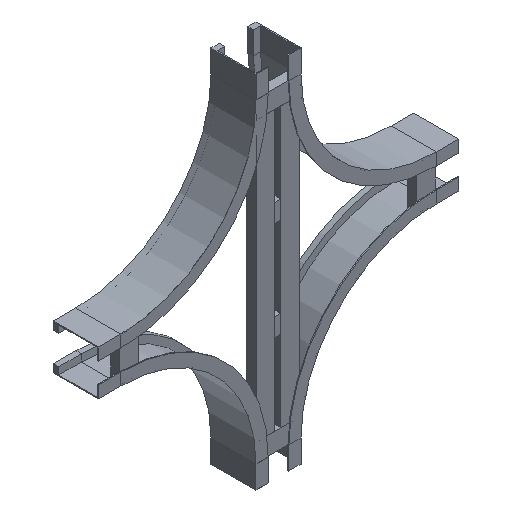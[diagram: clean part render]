
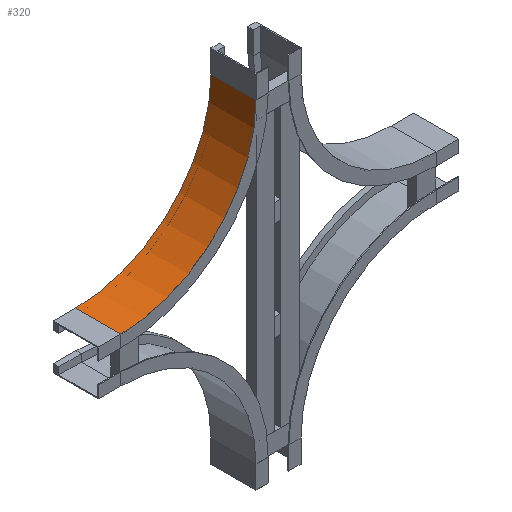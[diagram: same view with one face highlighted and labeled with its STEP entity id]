
A CAD part, isometric view. The second image highlights one B-rep face of the part: STEP entity #320.
In plain terms, the highlighted cylindrical face has radius 300 mm (diameter 600 mm), a partial arc.
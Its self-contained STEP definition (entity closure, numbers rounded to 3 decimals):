
#1 = CARTESIAN_POINT ( 'NONE',  ( 300., 0., -50. ) ) ;
#32 = EDGE_CURVE ( 'NONE', #1145, #415, #322, .T. ) ;
#75 = AXIS2_PLACEMENT_3D ( 'NONE', #1239, #1146, #171 ) ;
#96 = VECTOR ( 'NONE', #424, 1000. ) ;
#106 = DIRECTION ( 'NONE',  ( -1., 0., 0. ) ) ;
#171 = DIRECTION ( 'NONE',  ( 0., 0., -1. ) ) ;
#175 = CYLINDRICAL_SURFACE ( 'NONE', #75, 300. ) ;
#211 = ORIENTED_EDGE ( 'NONE', *, *, #708, .T. ) ;
#230 = ORIENTED_EDGE ( 'NONE', *, *, #32, .F. ) ;
#232 = DIRECTION ( 'NONE',  ( -1., 0., 0. ) ) ;
#273 = AXIS2_PLACEMENT_3D ( 'NONE', #1090, #547, #232 ) ;
#320 = ADVANCED_FACE ( 'NONE', ( #814 ), #175, .F. ) ;
#322 = CIRCLE ( 'NONE', #273, 300. ) ;
#354 = CARTESIAN_POINT ( 'NONE',  ( 0., 100., -50. ) ) ;
#397 = LINE ( 'NONE', #831, #947 ) ;
#415 = VERTEX_POINT ( 'NONE', #825 ) ;
#424 = DIRECTION ( 'NONE',  ( 0., 1., 0. ) ) ;
#547 = DIRECTION ( 'NONE',  ( 0., -1., 0. ) ) ;
#658 = DIRECTION ( 'NONE',  ( 0., -1., 0. ) ) ;
#700 = CARTESIAN_POINT ( 'NONE',  ( 0., 0., -50. ) ) ;
#708 = EDGE_CURVE ( 'NONE', #1058, #415, #397, .T. ) ;
#759 = EDGE_CURVE ( 'NONE', #962, #1145, #855, .T. ) ;
#771 = EDGE_CURVE ( 'NONE', #962, #1058, #1071, .T. ) ;
#814 = FACE_OUTER_BOUND ( 'NONE', #1195, .T. ) ;
#825 = CARTESIAN_POINT ( 'NONE',  ( 300., 100., -350. ) ) ;
#831 = CARTESIAN_POINT ( 'NONE',  ( 300., 0., -350. ) ) ;
#855 = LINE ( 'NONE', #1026, #96 ) ;
#879 = CARTESIAN_POINT ( 'NONE',  ( 300., 0., -350. ) ) ;
#947 = VECTOR ( 'NONE', #1383, 1000. ) ;
#962 = VERTEX_POINT ( 'NONE', #700 ) ;
#1026 = CARTESIAN_POINT ( 'NONE',  ( 0., 0., -50. ) ) ;
#1040 = ORIENTED_EDGE ( 'NONE', *, *, #771, .T. ) ;
#1058 = VERTEX_POINT ( 'NONE', #879 ) ;
#1071 = CIRCLE ( 'NONE', #1382, 300. ) ;
#1090 = CARTESIAN_POINT ( 'NONE',  ( 300., 100., -50. ) ) ;
#1145 = VERTEX_POINT ( 'NONE', #354 ) ;
#1146 = DIRECTION ( 'NONE',  ( 0., -1., 0. ) ) ;
#1195 = EDGE_LOOP ( 'NONE', ( #230, #1386, #1040, #211 ) ) ;
#1239 = CARTESIAN_POINT ( 'NONE',  ( 300., 0., -50. ) ) ;
#1382 = AXIS2_PLACEMENT_3D ( 'NONE', #1, #658, #106 ) ;
#1383 = DIRECTION ( 'NONE',  ( 0., 1., 0. ) ) ;
#1386 = ORIENTED_EDGE ( 'NONE', *, *, #759, .F. ) ;
